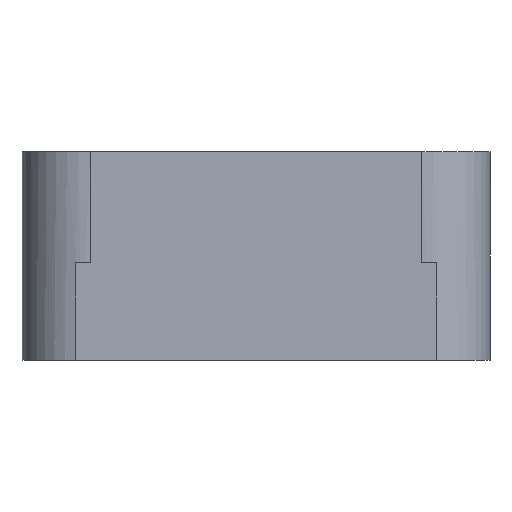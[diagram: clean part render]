
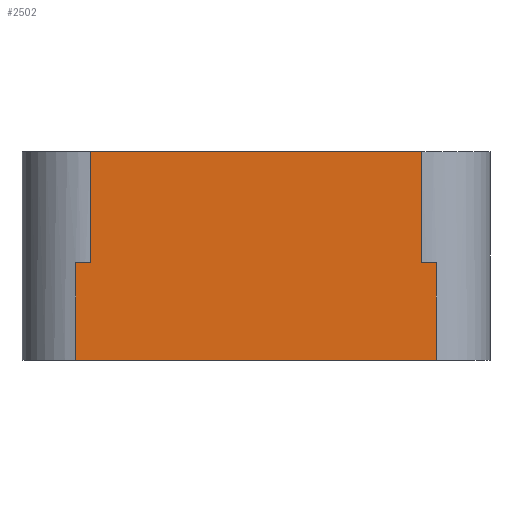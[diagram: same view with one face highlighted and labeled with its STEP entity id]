
A CAD part, left-side view. The second image highlights one B-rep face of the part: STEP entity #2502.
In plain terms, the highlighted planar face has unit normal (-1, 0, 0).
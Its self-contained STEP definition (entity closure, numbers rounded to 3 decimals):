
#44 = PLANE('',#45);
#45 = AXIS2_PLACEMENT_3D('',#46,#47,#48);
#46 = CARTESIAN_POINT('',(0.,0.,2.6));
#47 = DIRECTION('',(0.,0.,1.));
#48 = DIRECTION('',(1.,0.,-0.));
#72 = CYLINDRICAL_SURFACE('',#73,7.);
#73 = AXIS2_PLACEMENT_3D('',#74,#75,#76);
#74 = CARTESIAN_POINT('',(-20.,-17.,2.6));
#75 = DIRECTION('',(0.,0.,1.));
#76 = DIRECTION('',(0.,-1.,0.));
#100 = PLANE('',#101);
#101 = AXIS2_PLACEMENT_3D('',#102,#103,#104);
#102 = CARTESIAN_POINT('',(0.,0.,24.));
#103 = DIRECTION('',(0.,0.,1.));
#104 = DIRECTION('',(1.,0.,-0.));
#581 = CYLINDRICAL_SURFACE('',#582,7.);
#582 = AXIS2_PLACEMENT_3D('',#583,#584,#585);
#583 = CARTESIAN_POINT('',(-20.,17.,2.6));
#584 = DIRECTION('',(0.,0.,1.));
#585 = DIRECTION('',(-0.,1.,0.));
#594 = VERTEX_POINT('',#595);
#595 = CARTESIAN_POINT('',(-27.,18.5,2.6));
#609 = PLANE('',#610);
#610 = AXIS2_PLACEMENT_3D('',#611,#612,#613);
#611 = CARTESIAN_POINT('',(-27.,18.5,2.6));
#612 = DIRECTION('',(0.,1.,0.));
#613 = DIRECTION('',(0.,0.,1.));
#621 = EDGE_CURVE('',#622,#594,#624,.T.);
#622 = VERTEX_POINT('',#623);
#623 = CARTESIAN_POINT('',(-27.,-18.5,2.6));
#624 = SURFACE_CURVE('',#625,(#629,#636),.PCURVE_S1.);
#625 = LINE('',#626,#627);
#626 = CARTESIAN_POINT('',(-27.,-18.5,2.6));
#627 = VECTOR('',#628,1.);
#628 = DIRECTION('',(0.,1.,0.));
#629 = PCURVE('',#44,#630);
#630 = DEFINITIONAL_REPRESENTATION('',(#631),#635);
#631 = LINE('',#632,#633);
#632 = CARTESIAN_POINT('',(-27.,-18.5));
#633 = VECTOR('',#634,1.);
#634 = DIRECTION('',(0.,1.));
#635 = ( GEOMETRIC_REPRESENTATION_CONTEXT(2) 
PARAMETRIC_REPRESENTATION_CONTEXT() REPRESENTATION_CONTEXT('2D SPACE',''
  ) );
#636 = PCURVE('',#637,#642);
#637 = PLANE('',#638);
#638 = AXIS2_PLACEMENT_3D('',#639,#640,#641);
#639 = CARTESIAN_POINT('',(-27.,24.,2.6));
#640 = DIRECTION('',(1.,0.,-0.));
#641 = DIRECTION('',(0.,-1.,0.));
#642 = DEFINITIONAL_REPRESENTATION('',(#643),#647);
#643 = LINE('',#644,#645);
#644 = CARTESIAN_POINT('',(42.5,0.));
#645 = VECTOR('',#646,1.);
#646 = DIRECTION('',(-1.,0.));
#647 = ( GEOMETRIC_REPRESENTATION_CONTEXT(2) 
PARAMETRIC_REPRESENTATION_CONTEXT() REPRESENTATION_CONTEXT('2D SPACE',''
  ) );
#663 = PLANE('',#664);
#664 = AXIS2_PLACEMENT_3D('',#665,#666,#667);
#665 = CARTESIAN_POINT('',(-27.,-18.5,2.6));
#666 = DIRECTION('',(0.,1.,0.));
#667 = DIRECTION('',(0.,0.,1.));
#1487 = VERTEX_POINT('',#1488);
#1488 = CARTESIAN_POINT('',(-27.,-17.,12.6));
#1503 = PLANE('',#1504);
#1504 = AXIS2_PLACEMENT_3D('',#1505,#1506,#1507);
#1505 = CARTESIAN_POINT('',(-27.,-18.5,12.6));
#1506 = DIRECTION('',(0.,0.,1.));
#1507 = DIRECTION('',(1.,0.,0.));
#1515 = EDGE_CURVE('',#1487,#1516,#1518,.T.);
#1516 = VERTEX_POINT('',#1517);
#1517 = CARTESIAN_POINT('',(-27.,-17.,24.));
#1518 = SURFACE_CURVE('',#1519,(#1523,#1530),.PCURVE_S1.);
#1519 = LINE('',#1520,#1521);
#1520 = CARTESIAN_POINT('',(-27.,-17.,2.6));
#1521 = VECTOR('',#1522,1.);
#1522 = DIRECTION('',(0.,0.,1.));
#1523 = PCURVE('',#72,#1524);
#1524 = DEFINITIONAL_REPRESENTATION('',(#1525),#1529);
#1525 = LINE('',#1526,#1527);
#1526 = CARTESIAN_POINT('',(-1.571,0.));
#1527 = VECTOR('',#1528,1.);
#1528 = DIRECTION('',(-0.,1.));
#1529 = ( GEOMETRIC_REPRESENTATION_CONTEXT(2) 
PARAMETRIC_REPRESENTATION_CONTEXT() REPRESENTATION_CONTEXT('2D SPACE',''
  ) );
#1530 = PCURVE('',#637,#1531);
#1531 = DEFINITIONAL_REPRESENTATION('',(#1532),#1536);
#1532 = LINE('',#1533,#1534);
#1533 = CARTESIAN_POINT('',(41.,0.));
#1534 = VECTOR('',#1535,1.);
#1535 = DIRECTION('',(0.,-1.));
#1536 = ( GEOMETRIC_REPRESENTATION_CONTEXT(2) 
PARAMETRIC_REPRESENTATION_CONTEXT() REPRESENTATION_CONTEXT('2D SPACE',''
  ) );
#1811 = VERTEX_POINT('',#1812);
#1812 = CARTESIAN_POINT('',(-27.,17.,24.));
#1834 = EDGE_CURVE('',#1811,#1516,#1835,.T.);
#1835 = SURFACE_CURVE('',#1836,(#1840,#1847),.PCURVE_S1.);
#1836 = LINE('',#1837,#1838);
#1837 = CARTESIAN_POINT('',(-27.,24.,24.));
#1838 = VECTOR('',#1839,1.);
#1839 = DIRECTION('',(0.,-1.,0.));
#1840 = PCURVE('',#100,#1841);
#1841 = DEFINITIONAL_REPRESENTATION('',(#1842),#1846);
#1842 = LINE('',#1843,#1844);
#1843 = CARTESIAN_POINT('',(-27.,24.));
#1844 = VECTOR('',#1845,1.);
#1845 = DIRECTION('',(0.,-1.));
#1846 = ( GEOMETRIC_REPRESENTATION_CONTEXT(2) 
PARAMETRIC_REPRESENTATION_CONTEXT() REPRESENTATION_CONTEXT('2D SPACE',''
  ) );
#1847 = PCURVE('',#637,#1848);
#1848 = DEFINITIONAL_REPRESENTATION('',(#1849),#1853);
#1849 = LINE('',#1850,#1851);
#1850 = CARTESIAN_POINT('',(0.,-21.4));
#1851 = VECTOR('',#1852,1.);
#1852 = DIRECTION('',(1.,0.));
#1853 = ( GEOMETRIC_REPRESENTATION_CONTEXT(2) 
PARAMETRIC_REPRESENTATION_CONTEXT() REPRESENTATION_CONTEXT('2D SPACE',''
  ) );
#2458 = EDGE_CURVE('',#622,#2459,#2461,.T.);
#2459 = VERTEX_POINT('',#2460);
#2460 = CARTESIAN_POINT('',(-27.,-18.5,12.6));
#2461 = SURFACE_CURVE('',#2462,(#2466,#2473),.PCURVE_S1.);
#2462 = LINE('',#2463,#2464);
#2463 = CARTESIAN_POINT('',(-27.,-18.5,2.6));
#2464 = VECTOR('',#2465,1.);
#2465 = DIRECTION('',(0.,0.,1.));
#2466 = PCURVE('',#663,#2467);
#2467 = DEFINITIONAL_REPRESENTATION('',(#2468),#2472);
#2468 = LINE('',#2469,#2470);
#2469 = CARTESIAN_POINT('',(0.,0.));
#2470 = VECTOR('',#2471,1.);
#2471 = DIRECTION('',(1.,0.));
#2472 = ( GEOMETRIC_REPRESENTATION_CONTEXT(2) 
PARAMETRIC_REPRESENTATION_CONTEXT() REPRESENTATION_CONTEXT('2D SPACE',''
  ) );
#2473 = PCURVE('',#637,#2474);
#2474 = DEFINITIONAL_REPRESENTATION('',(#2475),#2479);
#2475 = LINE('',#2476,#2477);
#2476 = CARTESIAN_POINT('',(42.5,0.));
#2477 = VECTOR('',#2478,1.);
#2478 = DIRECTION('',(0.,-1.));
#2479 = ( GEOMETRIC_REPRESENTATION_CONTEXT(2) 
PARAMETRIC_REPRESENTATION_CONTEXT() REPRESENTATION_CONTEXT('2D SPACE',''
  ) );
#2502 = ADVANCED_FACE('',(#2503),#637,.F.);
#2503 = FACE_BOUND('',#2504,.F.);
#2504 = EDGE_LOOP('',(#2505,#2506,#2529,#2557,#2578,#2579,#2580,#2601));
#2505 = ORIENTED_EDGE('',*,*,#621,.T.);
#2506 = ORIENTED_EDGE('',*,*,#2507,.T.);
#2507 = EDGE_CURVE('',#594,#2508,#2510,.T.);
#2508 = VERTEX_POINT('',#2509);
#2509 = CARTESIAN_POINT('',(-27.,18.5,12.6));
#2510 = SURFACE_CURVE('',#2511,(#2515,#2522),.PCURVE_S1.);
#2511 = LINE('',#2512,#2513);
#2512 = CARTESIAN_POINT('',(-27.,18.5,2.6));
#2513 = VECTOR('',#2514,1.);
#2514 = DIRECTION('',(0.,0.,1.));
#2515 = PCURVE('',#637,#2516);
#2516 = DEFINITIONAL_REPRESENTATION('',(#2517),#2521);
#2517 = LINE('',#2518,#2519);
#2518 = CARTESIAN_POINT('',(5.5,0.));
#2519 = VECTOR('',#2520,1.);
#2520 = DIRECTION('',(0.,-1.));
#2521 = ( GEOMETRIC_REPRESENTATION_CONTEXT(2) 
PARAMETRIC_REPRESENTATION_CONTEXT() REPRESENTATION_CONTEXT('2D SPACE',''
  ) );
#2522 = PCURVE('',#609,#2523);
#2523 = DEFINITIONAL_REPRESENTATION('',(#2524),#2528);
#2524 = LINE('',#2525,#2526);
#2525 = CARTESIAN_POINT('',(0.,0.));
#2526 = VECTOR('',#2527,1.);
#2527 = DIRECTION('',(1.,0.));
#2528 = ( GEOMETRIC_REPRESENTATION_CONTEXT(2) 
PARAMETRIC_REPRESENTATION_CONTEXT() REPRESENTATION_CONTEXT('2D SPACE',''
  ) );
#2529 = ORIENTED_EDGE('',*,*,#2530,.F.);
#2530 = EDGE_CURVE('',#2531,#2508,#2533,.T.);
#2531 = VERTEX_POINT('',#2532);
#2532 = CARTESIAN_POINT('',(-27.,17.,12.6));
#2533 = SURFACE_CURVE('',#2534,(#2538,#2545),.PCURVE_S1.);
#2534 = LINE('',#2535,#2536);
#2535 = CARTESIAN_POINT('',(-27.,14.5,12.6));
#2536 = VECTOR('',#2537,1.);
#2537 = DIRECTION('',(0.,1.,0.));
#2538 = PCURVE('',#637,#2539);
#2539 = DEFINITIONAL_REPRESENTATION('',(#2540),#2544);
#2540 = LINE('',#2541,#2542);
#2541 = CARTESIAN_POINT('',(9.5,-10.));
#2542 = VECTOR('',#2543,1.);
#2543 = DIRECTION('',(-1.,0.));
#2544 = ( GEOMETRIC_REPRESENTATION_CONTEXT(2) 
PARAMETRIC_REPRESENTATION_CONTEXT() REPRESENTATION_CONTEXT('2D SPACE',''
  ) );
#2545 = PCURVE('',#2546,#2551);
#2546 = PLANE('',#2547);
#2547 = AXIS2_PLACEMENT_3D('',#2548,#2549,#2550);
#2548 = CARTESIAN_POINT('',(-27.,14.5,12.6));
#2549 = DIRECTION('',(0.,0.,1.));
#2550 = DIRECTION('',(1.,0.,0.));
#2551 = DEFINITIONAL_REPRESENTATION('',(#2552),#2556);
#2552 = LINE('',#2553,#2554);
#2553 = CARTESIAN_POINT('',(0.,0.));
#2554 = VECTOR('',#2555,1.);
#2555 = DIRECTION('',(0.,1.));
#2556 = ( GEOMETRIC_REPRESENTATION_CONTEXT(2) 
PARAMETRIC_REPRESENTATION_CONTEXT() REPRESENTATION_CONTEXT('2D SPACE',''
  ) );
#2557 = ORIENTED_EDGE('',*,*,#2558,.T.);
#2558 = EDGE_CURVE('',#2531,#1811,#2559,.T.);
#2559 = SURFACE_CURVE('',#2560,(#2564,#2571),.PCURVE_S1.);
#2560 = LINE('',#2561,#2562);
#2561 = CARTESIAN_POINT('',(-27.,17.,2.6));
#2562 = VECTOR('',#2563,1.);
#2563 = DIRECTION('',(0.,0.,1.));
#2564 = PCURVE('',#637,#2565);
#2565 = DEFINITIONAL_REPRESENTATION('',(#2566),#2570);
#2566 = LINE('',#2567,#2568);
#2567 = CARTESIAN_POINT('',(7.,0.));
#2568 = VECTOR('',#2569,1.);
#2569 = DIRECTION('',(0.,-1.));
#2570 = ( GEOMETRIC_REPRESENTATION_CONTEXT(2) 
PARAMETRIC_REPRESENTATION_CONTEXT() REPRESENTATION_CONTEXT('2D SPACE',''
  ) );
#2571 = PCURVE('',#581,#2572);
#2572 = DEFINITIONAL_REPRESENTATION('',(#2573),#2577);
#2573 = LINE('',#2574,#2575);
#2574 = CARTESIAN_POINT('',(1.571,0.));
#2575 = VECTOR('',#2576,1.);
#2576 = DIRECTION('',(0.,1.));
#2577 = ( GEOMETRIC_REPRESENTATION_CONTEXT(2) 
PARAMETRIC_REPRESENTATION_CONTEXT() REPRESENTATION_CONTEXT('2D SPACE',''
  ) );
#2578 = ORIENTED_EDGE('',*,*,#1834,.T.);
#2579 = ORIENTED_EDGE('',*,*,#1515,.F.);
#2580 = ORIENTED_EDGE('',*,*,#2581,.F.);
#2581 = EDGE_CURVE('',#2459,#1487,#2582,.T.);
#2582 = SURFACE_CURVE('',#2583,(#2587,#2594),.PCURVE_S1.);
#2583 = LINE('',#2584,#2585);
#2584 = CARTESIAN_POINT('',(-27.,-18.5,12.6));
#2585 = VECTOR('',#2586,1.);
#2586 = DIRECTION('',(0.,1.,0.));
#2587 = PCURVE('',#637,#2588);
#2588 = DEFINITIONAL_REPRESENTATION('',(#2589),#2593);
#2589 = LINE('',#2590,#2591);
#2590 = CARTESIAN_POINT('',(42.5,-10.));
#2591 = VECTOR('',#2592,1.);
#2592 = DIRECTION('',(-1.,0.));
#2593 = ( GEOMETRIC_REPRESENTATION_CONTEXT(2) 
PARAMETRIC_REPRESENTATION_CONTEXT() REPRESENTATION_CONTEXT('2D SPACE',''
  ) );
#2594 = PCURVE('',#1503,#2595);
#2595 = DEFINITIONAL_REPRESENTATION('',(#2596),#2600);
#2596 = LINE('',#2597,#2598);
#2597 = CARTESIAN_POINT('',(0.,0.));
#2598 = VECTOR('',#2599,1.);
#2599 = DIRECTION('',(0.,1.));
#2600 = ( GEOMETRIC_REPRESENTATION_CONTEXT(2) 
PARAMETRIC_REPRESENTATION_CONTEXT() REPRESENTATION_CONTEXT('2D SPACE',''
  ) );
#2601 = ORIENTED_EDGE('',*,*,#2458,.F.);
